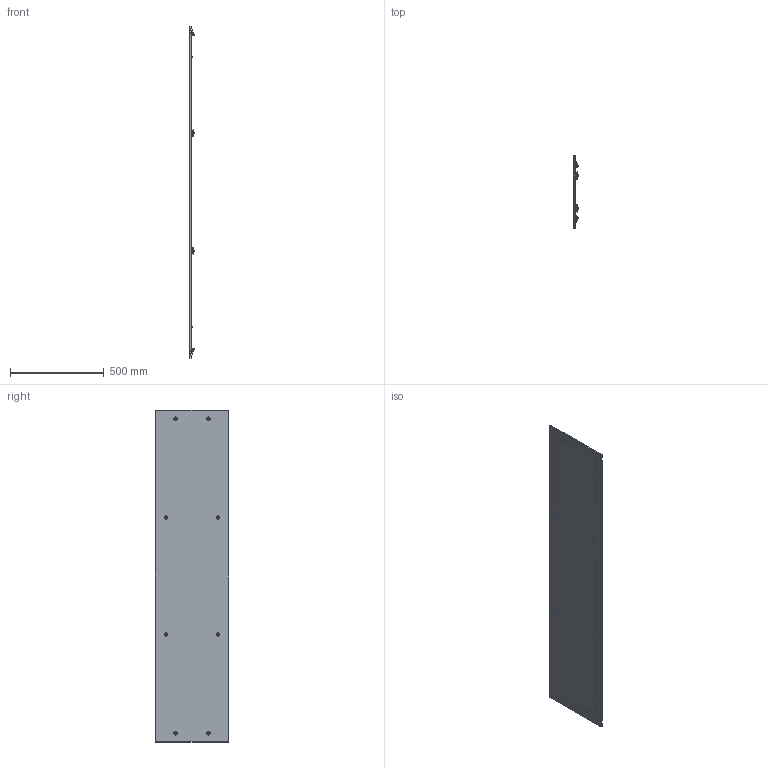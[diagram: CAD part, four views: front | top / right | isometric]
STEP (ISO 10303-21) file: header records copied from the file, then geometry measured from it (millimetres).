
FILE_DESCRIPTION(('STEP AP203'), '1');
FILE_NAME('3630 Ñåêöèîííàÿ ïàíåëü íà âèíòàõ (íà âñþ âûñîòó) ÑÁ', '', ('UNSPECIFIED'), ('UNSPECIFIED'), 'C3D Converter', 'C3D Toolkit', '');
FILE_SCHEMA(('CONFIG_CONTROL_DESIGN'));
Length unit declared in the file: millimetre
Products named in the file (10): 3630.180.40 СБ; 3631.180.40; 3632.180.40; 203-0655.61;  202-1103.15-00530; 3604; 3654
Assembly tree (46 placements, depth 3):
  3630.180.40 СБ
    3631.180.40
      3632.180.40
      (unnamed)  x2
    203-0655.61  x8
     202-1103.15-00530  x8
    3604  x8
      3654
      (unnamed)
    (unnamed)  x16
Bounding box: 31.95 x 391 x 1771 mm (x, y, z)
Volume: 1513469.2 mm3; surface area: 1716557.1 mm2
Topology: 52 solids, 52 shells, 1397 faces, 3444 edges, 2228 vertices
Faces by surface type: plane 759, cylinder 294, bspline 144, cone 114, torus 70, sphere 16
Full cylindrical faces by diameter (mm): 4 x8, 4.134 x8, 4.8 x16, 5 x8, 5.2 x16, 6 x2, 6.38 x8, 6.4 x8, 7.5 x16, 7.74 x8, 8.7 x8, 9.5 x16, 11.5 x4
Entity records: 12757 total; most frequent: CARTESIAN_POINT 4428, DIRECTION 1452, ORIENTED_EDGE 1256, EDGE_CURVE 628, AXIS2_PLACEMENT_3D 544, VERTEX_POINT 414, EDGE_LOOP 396, LINE 364
